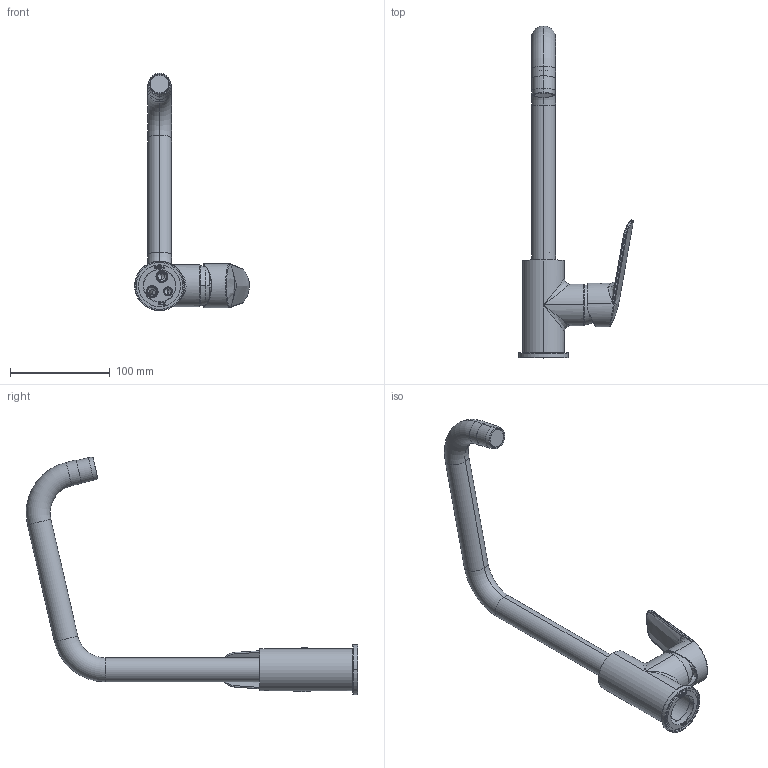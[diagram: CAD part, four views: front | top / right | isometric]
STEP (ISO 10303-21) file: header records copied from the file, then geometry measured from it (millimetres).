
FILE_DESCRIPTION((''),'2;1');
FILE_NAME('F3007_1R_FILE_3D','2019-05-17T',('ivanv'),(''),'CREO PARAMETRIC BY PTC INC, 2016260','CREO PARAMETRIC BY PTC INC, 2016260','');
FILE_SCHEMA(('CONFIG_CONTROL_DESIGN'));
Length unit declared in the file: millimetre
Products named in the file (1): F3007_1R_FILE_3D
Bounding box: 114.79 x 331.92 x 237.53 mm (x, y, z)
Volume: 161614.8 mm3; surface area: 113952.6 mm2
Topology: 3 solids, 3 shells, 1338 faces, 3583 edges, 2276 vertices
Faces by surface type: plane 810, bspline 199, cylinder 132, cone 85, extrusion 58, torus 42, sphere 12
Entity records: 54309 total; most frequent: CARTESIAN_POINT 23469, ORIENTED_EDGE 7120, DIRECTION 5210, EDGE_CURVE 3560, VERTEX_POINT 2276, VECTOR 2078, LINE 2020, AXIS2_PLACEMENT_3D 1566
